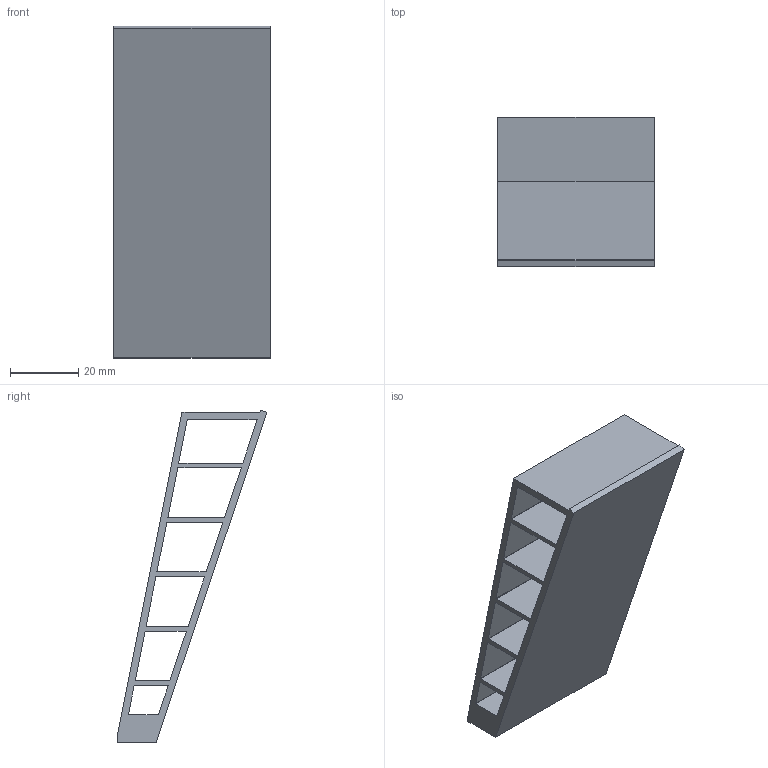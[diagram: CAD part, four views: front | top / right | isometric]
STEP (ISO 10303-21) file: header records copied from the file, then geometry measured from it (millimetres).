
FILE_DESCRIPTION(('Open CASCADE Model'),'2;1');
FILE_NAME('Open CASCADE Shape Model','2026-10-16T00:41:01',('Author'),( 'Open CASCADE'),'Open CASCADE STEP processor 7.9','Open CASCADE 7.9' ,'Unknown');
FILE_SCHEMA(('AUTOMOTIVE_DESIGN { 1 0 10303 214 1 1 1 1 }'));
Length unit declared in the file: millimetre
Products named in the file (1): Open CASCADE STEP translator 7.9 12
Bounding box: 46 x 44.1 x 97.64 mm (x, y, z)
Volume: 28316.1 mm3; surface area: 27757.4 mm2
Topology: 1 solids, 1 shells, 442 faces, 1320 edges, 880 vertices
Faces by surface type: plane 442
Entity records: 31738 total; most frequent: CARTESIAN_POINT 5283, DIRECTION 4846, LINE 3960, VECTOR 3960, ORIENTED_EDGE 2640, PCURVE 2640, DEFINITIONAL_REPRESENTATION 2640, EDGE_CURVE 1320
